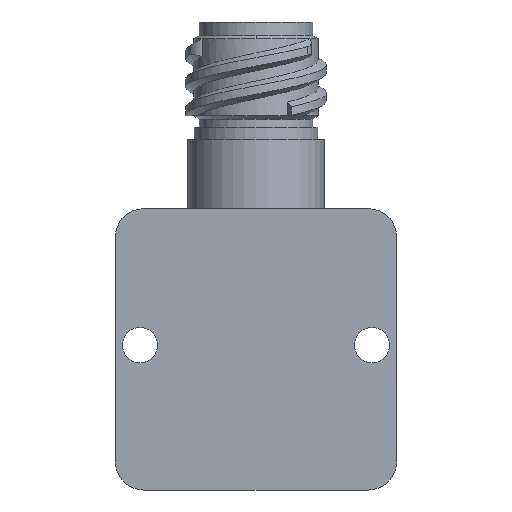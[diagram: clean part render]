
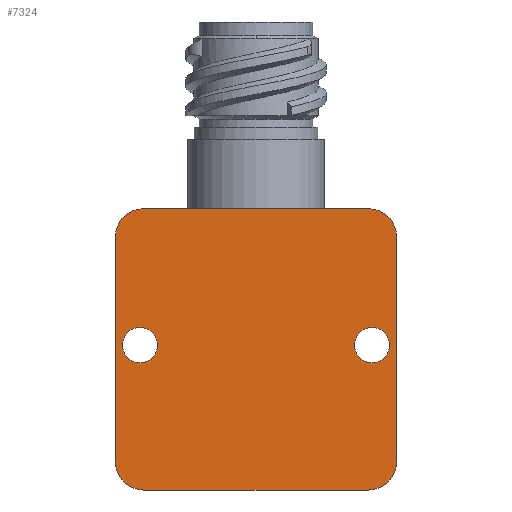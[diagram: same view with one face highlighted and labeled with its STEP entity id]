
A CAD part, front view. The second image highlights one B-rep face of the part: STEP entity #7324.
In plain terms, the highlighted planar face has unit normal (0, -1, 0).
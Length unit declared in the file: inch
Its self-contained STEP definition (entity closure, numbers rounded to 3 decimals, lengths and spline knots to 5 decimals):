
#185 = CIRCLE ( 'NONE', #3482, 0.1 ) ;
#243 = CARTESIAN_POINT ( 'NONE',  ( 0.5, -0.4, 0.4 ) ) ;
#441 = DIRECTION ( 'NONE',  ( 0., 0., 1. ) ) ;
#567 = CARTESIAN_POINT ( 'NONE',  ( 0.5, -0.4, 0.5 ) ) ;
#595 = CIRCLE ( 'NONE', #19570, 0.0625 ) ;
#735 = AXIS2_PLACEMENT_3D ( 'NONE', #6097, #17068, #7655 ) ;
#819 = CIRCLE ( 'NONE', #8202, 0.1 ) ;
#964 = FACE_OUTER_BOUND ( 'NONE', #7261, .T. ) ;
#1090 = VECTOR ( 'NONE', #17809, 39.37008 ) ;
#1131 = CIRCLE ( 'NONE', #11590, 0.0625 ) ;
#1297 = CARTESIAN_POINT ( 'NONE',  ( 0.4125, -0.4, 0.015 ) ) ;
#1696 = DIRECTION ( 'NONE',  ( 0., 1., 0. ) ) ;
#1868 = CARTESIAN_POINT ( 'NONE',  ( 0.4125, -0.4, -0.0475 ) ) ;
#2453 = VERTEX_POINT ( 'NONE', #1868 ) ;
#2619 = EDGE_CURVE ( 'NONE', #8081, #11948, #819, .T. ) ;
#2802 = ORIENTED_EDGE ( 'NONE', *, *, #10344, .F. ) ;
#2839 = DIRECTION ( 'NONE',  ( 0., 0., -1. ) ) ;
#3482 = AXIS2_PLACEMENT_3D ( 'NONE', #15834, #6386, #17373 ) ;
#3603 = ORIENTED_EDGE ( 'NONE', *, *, #4706, .F. ) ;
#3866 = AXIS2_PLACEMENT_3D ( 'NONE', #16318, #6879, #17850 ) ;
#3891 = CARTESIAN_POINT ( 'NONE',  ( -0.5, -0.4, -0.5 ) ) ;
#4053 = EDGE_CURVE ( 'NONE', #14139, #12528, #8960, .T. ) ;
#4070 = VERTEX_POINT ( 'NONE', #12362 ) ;
#4349 = ORIENTED_EDGE ( 'NONE', *, *, #8850, .F. ) ;
#4706 = EDGE_CURVE ( 'NONE', #8081, #7409, #9950, .T. ) ;
#4980 = ORIENTED_EDGE ( 'NONE', *, *, #19729, .F. ) ;
#5042 = CARTESIAN_POINT ( 'NONE',  ( -0.5, -0.4, -0.5 ) ) ;
#5287 = ORIENTED_EDGE ( 'NONE', *, *, #17670, .T. ) ;
#5289 = VECTOR ( 'NONE', #9851, 39.37008 ) ;
#5333 = ORIENTED_EDGE ( 'NONE', *, *, #14174, .T. ) ;
#5417 = AXIS2_PLACEMENT_3D ( 'NONE', #3891, #14844, #5426 ) ;
#5426 = DIRECTION ( 'NONE',  ( 0., 0., -1. ) ) ;
#5635 = CARTESIAN_POINT ( 'NONE',  ( 0.5, -0.4, -0.4 ) ) ;
#5700 = VERTEX_POINT ( 'NONE', #6177 ) ;
#6097 = CARTESIAN_POINT ( 'NONE',  ( -0.4, -0.4, -0.4 ) ) ;
#6177 = CARTESIAN_POINT ( 'NONE',  ( -0.5, -0.4, 0.4 ) ) ;
#6371 = EDGE_CURVE ( 'NONE', #17795, #9380, #18440, .T. ) ;
#6386 = DIRECTION ( 'NONE',  ( 0., -1., 0. ) ) ;
#6722 = ORIENTED_EDGE ( 'NONE', *, *, #6371, .T. ) ;
#6764 = EDGE_CURVE ( 'NONE', #4070, #7409, #185, .T. ) ;
#6879 = DIRECTION ( 'NONE',  ( 0., 1., 0. ) ) ;
#7048 = CARTESIAN_POINT ( 'NONE',  ( -0.5, -0.4, 0.5 ) ) ;
#7261 = EDGE_LOOP ( 'NONE', ( #4349, #8501, #3603, #8104, #4980, #5287, #2802, #11626 ) ) ;
#7324 = ADVANCED_FACE ( 'NONE', ( #13411, #17548, #964 ), #16347, .T. ) ;
#7340 = DIRECTION ( 'NONE',  ( 0., -1., 0. ) ) ;
#7409 = VERTEX_POINT ( 'NONE', #5635 ) ;
#7655 = DIRECTION ( 'NONE',  ( 0., 0., -1. ) ) ;
#8081 = VERTEX_POINT ( 'NONE', #243 ) ;
#8104 = ORIENTED_EDGE ( 'NONE', *, *, #2619, .T. ) ;
#8202 = AXIS2_PLACEMENT_3D ( 'NONE', #15470, #10694, #17225 ) ;
#8501 = ORIENTED_EDGE ( 'NONE', *, *, #6764, .T. ) ;
#8522 = DIRECTION ( 'NONE',  ( 0., 0., 1. ) ) ;
#8818 = LINE ( 'NONE', #7048, #1090 ) ;
#8850 = EDGE_CURVE ( 'NONE', #4070, #12528, #18655, .T. ) ;
#8960 = CIRCLE ( 'NONE', #735, 0.1 ) ;
#9380 = VERTEX_POINT ( 'NONE', #16385 ) ;
#9719 = DIRECTION ( 'NONE',  ( 0., 1., 0. ) ) ;
#9851 = DIRECTION ( 'NONE',  ( 0., 0., -1. ) ) ;
#9950 = LINE ( 'NONE', #567, #5289 ) ;
#10194 = ORIENTED_EDGE ( 'NONE', *, *, #12067, .T. ) ;
#10344 = EDGE_CURVE ( 'NONE', #14139, #5700, #14252, .T. ) ;
#10375 = VECTOR ( 'NONE', #16232, 39.37008 ) ;
#10669 = CARTESIAN_POINT ( 'NONE',  ( -0.4125, -0.4, -0.0475 ) ) ;
#10694 = DIRECTION ( 'NONE',  ( 0., -1., 0. ) ) ;
#10765 = VERTEX_POINT ( 'NONE', #13369 ) ;
#11047 = CARTESIAN_POINT ( 'NONE',  ( 0.4125, -0.4, 0.015 ) ) ;
#11590 = AXIS2_PLACEMENT_3D ( 'NONE', #11047, #1696, #12612 ) ;
#11626 = ORIENTED_EDGE ( 'NONE', *, *, #4053, .T. ) ;
#11755 = CARTESIAN_POINT ( 'NONE',  ( -0.5, -0.4, 0.5 ) ) ;
#11937 = EDGE_LOOP ( 'NONE', ( #5333, #17011 ) ) ;
#11948 = VERTEX_POINT ( 'NONE', #12560 ) ;
#12067 = EDGE_CURVE ( 'NONE', #9380, #17795, #19964, .T. ) ;
#12203 = DIRECTION ( 'NONE',  ( 0., 1., 0. ) ) ;
#12362 = CARTESIAN_POINT ( 'NONE',  ( 0.4, -0.4, -0.5 ) ) ;
#12486 = AXIS2_PLACEMENT_3D ( 'NONE', #16772, #7340, #18287 ) ;
#12528 = VERTEX_POINT ( 'NONE', #14324 ) ;
#12560 = CARTESIAN_POINT ( 'NONE',  ( 0.4, -0.4, 0.5 ) ) ;
#12612 = DIRECTION ( 'NONE',  ( 0., 0., -1. ) ) ;
#13369 = CARTESIAN_POINT ( 'NONE',  ( -0.4, -0.4, 0.5 ) ) ;
#13411 = FACE_BOUND ( 'NONE', #11937, .T. ) ;
#13747 = VECTOR ( 'NONE', #8522, 39.37008 ) ;
#13789 = AXIS2_PLACEMENT_3D ( 'NONE', #19055, #9719, #441 ) ;
#14139 = VERTEX_POINT ( 'NONE', #19854 ) ;
#14174 = EDGE_CURVE ( 'NONE', #20139, #2453, #595, .T. ) ;
#14252 = LINE ( 'NONE', #11755, #13747 ) ;
#14324 = CARTESIAN_POINT ( 'NONE',  ( -0.4, -0.4, -0.5 ) ) ;
#14844 = DIRECTION ( 'NONE',  ( 0., -1., 0. ) ) ;
#14894 = CARTESIAN_POINT ( 'NONE',  ( 0.4125, -0.4, 0.0775 ) ) ;
#15470 = CARTESIAN_POINT ( 'NONE',  ( 0.4, -0.4, 0.4 ) ) ;
#15834 = CARTESIAN_POINT ( 'NONE',  ( 0.4, -0.4, -0.4 ) ) ;
#16232 = DIRECTION ( 'NONE',  ( -1., 0., 0. ) ) ;
#16318 = CARTESIAN_POINT ( 'NONE',  ( -0.4125, -0.4, 0.015 ) ) ;
#16347 = PLANE ( 'NONE',  #5417 ) ;
#16385 = CARTESIAN_POINT ( 'NONE',  ( -0.4125, -0.4, 0.0775 ) ) ;
#16772 = CARTESIAN_POINT ( 'NONE',  ( -0.4, -0.4, 0.4 ) ) ;
#17011 = ORIENTED_EDGE ( 'NONE', *, *, #19007, .T. ) ;
#17048 = CIRCLE ( 'NONE', #12486, 0.1 ) ;
#17068 = DIRECTION ( 'NONE',  ( 0., -1., 0. ) ) ;
#17225 = DIRECTION ( 'NONE',  ( 0., 0., -1. ) ) ;
#17373 = DIRECTION ( 'NONE',  ( 0., 0., -1. ) ) ;
#17548 = FACE_BOUND ( 'NONE', #18374, .T. ) ;
#17670 = EDGE_CURVE ( 'NONE', #10765, #5700, #17048, .T. ) ;
#17795 = VERTEX_POINT ( 'NONE', #10669 ) ;
#17809 = DIRECTION ( 'NONE',  ( 1., 0., 0. ) ) ;
#17850 = DIRECTION ( 'NONE',  ( 0., 0., 1. ) ) ;
#18287 = DIRECTION ( 'NONE',  ( 0., 0., -1. ) ) ;
#18374 = EDGE_LOOP ( 'NONE', ( #10194, #6722 ) ) ;
#18440 = CIRCLE ( 'NONE', #3866, 0.0625 ) ;
#18655 = LINE ( 'NONE', #5042, #10375 ) ;
#19007 = EDGE_CURVE ( 'NONE', #2453, #20139, #1131, .T. ) ;
#19055 = CARTESIAN_POINT ( 'NONE',  ( -0.4125, -0.4, 0.015 ) ) ;
#19570 = AXIS2_PLACEMENT_3D ( 'NONE', #1297, #12203, #2839 ) ;
#19729 = EDGE_CURVE ( 'NONE', #10765, #11948, #8818, .T. ) ;
#19854 = CARTESIAN_POINT ( 'NONE',  ( -0.5, -0.4, -0.4 ) ) ;
#19964 = CIRCLE ( 'NONE', #13789, 0.0625 ) ;
#20139 = VERTEX_POINT ( 'NONE', #14894 ) ;
